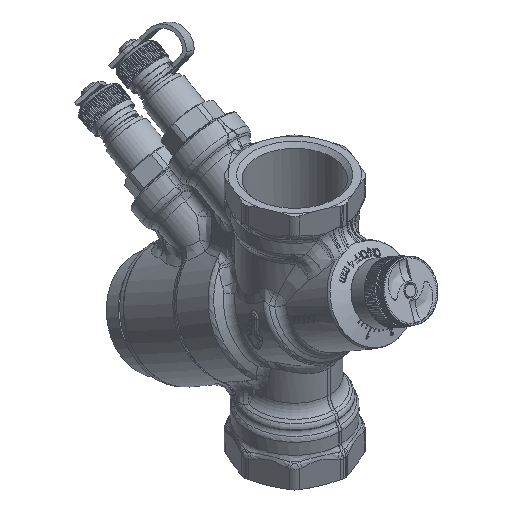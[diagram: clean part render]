
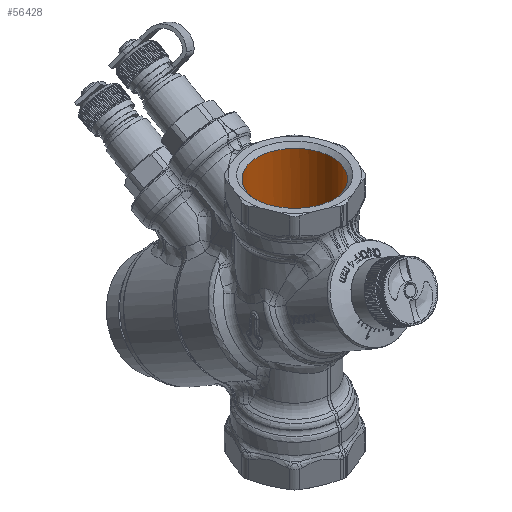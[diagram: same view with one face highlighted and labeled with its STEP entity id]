
A CAD part, isometric view. The second image highlights one B-rep face of the part: STEP entity #56428.
In plain terms, the highlighted cylindrical face has radius 12.25 mm (diameter 24.5 mm), a full revolution.
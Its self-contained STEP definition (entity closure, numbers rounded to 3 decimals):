
#1609=FACE_BOUND('',#9570,.T.);
#1869=CIRCLE('',#60549,12.25);
#1870=CIRCLE('',#60551,12.25);
#1871=CIRCLE('',#60552,12.25);
#6250=FACE_OUTER_BOUND('',#9569,.T.);
#9569=EDGE_LOOP('',(#37756,#37757,#37758,#37759,#37760,#37761));
#9570=EDGE_LOOP('',(#37762,#37763));
#13028=B_SPLINE_CURVE_WITH_KNOTS('',3,(#80282,#80283,#80284,#80285,#80286,
#80287,#80288,#80289,#80290,#80291,#80292,#80293,#80294,#80295,#80296,#80297,
#80298,#80299),.UNSPECIFIED.,.F.,.F.,(4,2,2,2,2,2,2,2,4),(0.,0.064,
0.128,0.184,0.24,0.296,
0.352,0.417,0.481),.UNSPECIFIED.);
#13029=B_SPLINE_CURVE_WITH_KNOTS('',3,(#80300,#80301,#80302,#80303,#80304,
#80305,#80306,#80307,#80308,#80309,#80310,#80311,#80312,#80313,#80314,#80315,
#80316,#80317),.UNSPECIFIED.,.F.,.F.,(4,2,2,2,2,2,2,2,4),(0.481,
0.546,0.61,0.669,0.729,
0.785,0.842,0.909,0.976),
 .UNSPECIFIED.);
#13034=B_SPLINE_CURVE_WITH_KNOTS('',3,(#80421,#80422,#80423,#80424,#80425,
#80426,#80427,#80428,#80429,#80430,#80431,#80432,#80433,#80434,#80435,#80436,
#80437,#80438,#80439,#80440),.UNSPECIFIED.,.F.,.F.,(4,2,2,2,2,2,2,2,2,4),
(0.933,1.226,1.521,1.817,2.01,
2.203,2.426,2.65,3.097,3.505),
 .UNSPECIFIED.);
#15053=LINE('',#81032,#18871);
#18871=VECTOR('',#65582,12.25);
#22757=VERTEX_POINT('',#80279);
#22758=VERTEX_POINT('',#80281);
#22778=VERTEX_POINT('',#80413);
#22779=VERTEX_POINT('',#80420);
#22839=VERTEX_POINT('',#81027);
#22840=VERTEX_POINT('',#81031);
#28588=EDGE_CURVE('',#22758,#22757,#13028,.T.);
#28589=EDGE_CURVE('',#22757,#22758,#13029,.T.);
#28622=EDGE_CURVE('',#22778,#22779,#13034,.T.);
#28707=EDGE_CURVE('',#22839,#22839,#1869,.T.);
#28708=EDGE_CURVE('',#22839,#22840,#15053,.T.);
#28709=EDGE_CURVE('',#22779,#22840,#1870,.T.);
#28710=EDGE_CURVE('',#22840,#22778,#1871,.T.);
#37756=ORIENTED_EDGE('',*,*,#28707,.F.);
#37757=ORIENTED_EDGE('',*,*,#28708,.T.);
#37758=ORIENTED_EDGE('',*,*,#28709,.F.);
#37759=ORIENTED_EDGE('',*,*,#28622,.F.);
#37760=ORIENTED_EDGE('',*,*,#28710,.F.);
#37761=ORIENTED_EDGE('',*,*,#28708,.F.);
#37762=ORIENTED_EDGE('',*,*,#28588,.T.);
#37763=ORIENTED_EDGE('',*,*,#28589,.T.);
#54567=CYLINDRICAL_SURFACE('',#60550,12.25);
#56428=ADVANCED_FACE('',(#6250,#1609),#54567,.F.);
#60549=AXIS2_PLACEMENT_3D('',#81029,#65578,#65579);
#60550=AXIS2_PLACEMENT_3D('',#81030,#65580,#65581);
#60551=AXIS2_PLACEMENT_3D('',#81033,#65583,#65584);
#60552=AXIS2_PLACEMENT_3D('',#81034,#65585,#65586);
#65578=DIRECTION('center_axis',(0.,0.,-1.));
#65579=DIRECTION('ref_axis',(-1.,0.,0.));
#65580=DIRECTION('center_axis',(0.,0.,-1.));
#65581=DIRECTION('ref_axis',(-1.,0.,0.));
#65582=DIRECTION('',(0.,0.,-1.));
#65583=DIRECTION('center_axis',(0.,0.,1.));
#65584=DIRECTION('ref_axis',(1.,0.,0.));
#65585=DIRECTION('center_axis',(0.,0.,1.));
#65586=DIRECTION('ref_axis',(1.,0.,0.));
#80279=CARTESIAN_POINT('',(-1.5,12.158,20.183));
#80281=CARTESIAN_POINT('',(1.5,12.158,20.183));
#80282=CARTESIAN_POINT('Ctrl Pts',(1.5,12.158,20.183));
#80283=CARTESIAN_POINT('Ctrl Pts',(1.5,12.158,19.969));
#80284=CARTESIAN_POINT('Ctrl Pts',(1.464,12.163,19.738));
#80285=CARTESIAN_POINT('Ctrl Pts',(1.306,12.18,19.311));
#80286=CARTESIAN_POINT('Ctrl Pts',(1.184,12.194,19.114));
#80287=CARTESIAN_POINT('Ctrl Pts',(0.909,12.217,18.824));
#80288=CARTESIAN_POINT('Ctrl Pts',(0.746,12.229,18.704));
#80289=CARTESIAN_POINT('Ctrl Pts',(0.385,12.245,18.544));
#80290=CARTESIAN_POINT('Ctrl Pts',(0.187,12.25,18.504));
#80291=CARTESIAN_POINT('Ctrl Pts',(-0.187,12.25,18.504));
#80292=CARTESIAN_POINT('Ctrl Pts',(-0.385,12.245,
18.544));
#80293=CARTESIAN_POINT('Ctrl Pts',(-0.746,12.229,
18.704));
#80294=CARTESIAN_POINT('Ctrl Pts',(-0.909,12.217,
18.824));
#80295=CARTESIAN_POINT('Ctrl Pts',(-1.184,12.194,19.114));
#80296=CARTESIAN_POINT('Ctrl Pts',(-1.306,12.18,19.311));
#80297=CARTESIAN_POINT('Ctrl Pts',(-1.464,12.163,19.738));
#80298=CARTESIAN_POINT('Ctrl Pts',(-1.5,12.158,19.969));
#80299=CARTESIAN_POINT('Ctrl Pts',(-1.5,12.158,20.183));
#80300=CARTESIAN_POINT('Ctrl Pts',(-1.5,12.158,20.183));
#80301=CARTESIAN_POINT('Ctrl Pts',(-1.5,12.158,20.398));
#80302=CARTESIAN_POINT('Ctrl Pts',(-1.463,12.163,20.63));
#80303=CARTESIAN_POINT('Ctrl Pts',(-1.312,12.18,21.065));
#80304=CARTESIAN_POINT('Ctrl Pts',(-1.198,12.192,21.269));
#80305=CARTESIAN_POINT('Ctrl Pts',(-0.935,12.215,
21.586));
#80306=CARTESIAN_POINT('Ctrl Pts',(-0.772,12.227,
21.726));
#80307=CARTESIAN_POINT('Ctrl Pts',(-0.403,12.245,
21.917));
#80308=CARTESIAN_POINT('Ctrl Pts',(-0.198,12.25,21.968));
#80309=CARTESIAN_POINT('Ctrl Pts',(0.188,12.25,21.968));
#80310=CARTESIAN_POINT('Ctrl Pts',(0.385,12.245,21.922));
#80311=CARTESIAN_POINT('Ctrl Pts',(0.74,12.229,21.746));
#80312=CARTESIAN_POINT('Ctrl Pts',(0.899,12.218,21.618));
#80313=CARTESIAN_POINT('Ctrl Pts',(1.173,12.195,21.309));
#80314=CARTESIAN_POINT('Ctrl Pts',(1.297,12.181,21.1));
#80315=CARTESIAN_POINT('Ctrl Pts',(1.46,12.163,20.649));
#80316=CARTESIAN_POINT('Ctrl Pts',(1.5,12.158,20.408));
#80317=CARTESIAN_POINT('Ctrl Pts',(1.5,12.158,20.183));
#80413=CARTESIAN_POINT('',(-9.044,-8.262,12.));
#80420=CARTESIAN_POINT('',(9.044,-8.262,12.));
#80421=CARTESIAN_POINT('Ctrl Pts',(-9.044,-8.262,
12.));
#80422=CARTESIAN_POINT('Ctrl Pts',(-8.67,-8.672,
12.861));
#80423=CARTESIAN_POINT('Ctrl Pts',(-8.246,-9.079,
13.683));
#80424=CARTESIAN_POINT('Ctrl Pts',(-7.305,-9.853,
15.217));
#80425=CARTESIAN_POINT('Ctrl Pts',(-6.722,-10.271,
16.028));
#80426=CARTESIAN_POINT('Ctrl Pts',(-5.37,-11.038,
17.497));
#80427=CARTESIAN_POINT('Ctrl Pts',(-4.599,-11.386,
18.155));
#80428=CARTESIAN_POINT('Ctrl Pts',(-3.26,-11.821,
18.974));
#80429=CARTESIAN_POINT('Ctrl Pts',(-2.641,-11.98,
19.271));
#80430=CARTESIAN_POINT('Ctrl Pts',(-1.333,-12.195,19.672));
#80431=CARTESIAN_POINT('Ctrl Pts',(-0.643,-12.25,19.774));
#80432=CARTESIAN_POINT('Ctrl Pts',(0.745,-12.25,19.774));
#80433=CARTESIAN_POINT('Ctrl Pts',(1.472,-12.182,19.647));
#80434=CARTESIAN_POINT('Ctrl Pts',(2.857,-11.933,19.182));
#80435=CARTESIAN_POINT('Ctrl Pts',(3.514,-11.753,18.845));
#80436=CARTESIAN_POINT('Ctrl Pts',(5.345,-11.098,17.613));
#80437=CARTESIAN_POINT('Ctrl Pts',(6.373,-10.508,16.49));
#80438=CARTESIAN_POINT('Ctrl Pts',(7.896,-9.409,14.345));
#80439=CARTESIAN_POINT('Ctrl Pts',(8.521,-8.835,13.204));
#80440=CARTESIAN_POINT('Ctrl Pts',(9.044,-8.262,12.));
#81027=CARTESIAN_POINT('',(12.25,0.,34.6));
#81029=CARTESIAN_POINT('Origin',(0.,0.,
34.6));
#81030=CARTESIAN_POINT('Origin',(0.,0.,
28.05));
#81031=CARTESIAN_POINT('',(12.25,0.,12.));
#81032=CARTESIAN_POINT('',(12.25,0.,28.05));
#81033=CARTESIAN_POINT('Origin',(0.,0.,
12.));
#81034=CARTESIAN_POINT('Origin',(0.,0.,
12.));
